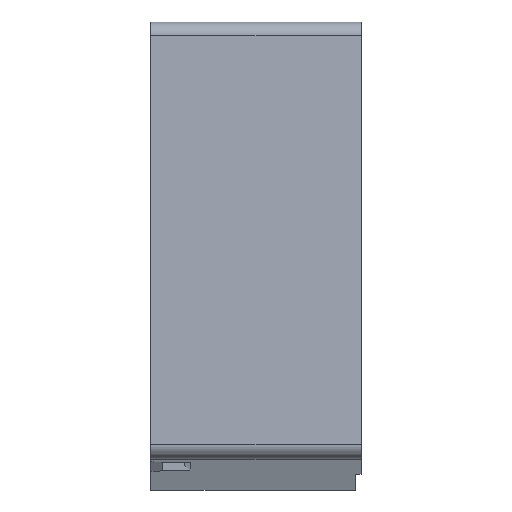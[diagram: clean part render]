
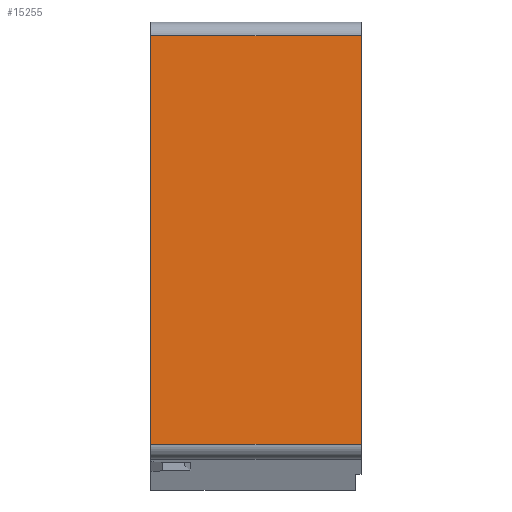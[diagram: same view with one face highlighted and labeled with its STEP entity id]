
A CAD part, front view. The second image highlights one B-rep face of the part: STEP entity #15255.
In plain terms, the highlighted planar face has unit normal (0, -0.999, 0.05).
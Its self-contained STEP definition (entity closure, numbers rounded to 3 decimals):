
#2546=DIRECTION('',(0.,-0.05,-0.999));
#2547=VECTOR('',#2546,70.);
#2548=CARTESIAN_POINT('',(26.598,-51.961,54.582));
#2549=LINE('',#2548,#2547);
#2563=DIRECTION('',(-1.,0.,0.));
#2564=VECTOR('',#2563,36.);
#2565=CARTESIAN_POINT('',(62.598,-51.961,54.582));
#2566=LINE('',#2565,#2564);
#3061=DIRECTION('',(1.,0.,0.));
#3062=VECTOR('',#3061,36.);
#3063=CARTESIAN_POINT('',(26.598,-55.464,
-15.33));
#3064=LINE('',#3063,#3062);
#3069=DIRECTION('',(0.,-0.05,-0.999));
#3070=VECTOR('',#3069,70.);
#3071=CARTESIAN_POINT('',(62.598,-51.961,54.582));
#3072=LINE('',#3071,#3070);
#9528=CARTESIAN_POINT('',(62.598,-55.464,
-15.33));
#9530=VERTEX_POINT('',#9528);
#9531=CARTESIAN_POINT('',(62.598,-51.961,54.582));
#9532=VERTEX_POINT('',#9531);
#10717=CARTESIAN_POINT('',(26.598,-55.464,
-15.33));
#10718=VERTEX_POINT('',#10717);
#10719=CARTESIAN_POINT('',(26.598,-51.961,
54.582));
#10720=VERTEX_POINT('',#10719);
#15244=CARTESIAN_POINT('',(62.598,-55.589,
-17.827));
#15245=DIRECTION('',(0.,-0.999,0.05));
#15246=DIRECTION('',(0.,0.05,0.999));
#15247=AXIS2_PLACEMENT_3D('',#15244,#15245,#15246);
#15248=PLANE('',#15247);
#15249=ORIENTED_EDGE('',*,*,#14540,.F.);
#15250=ORIENTED_EDGE('',*,*,#14562,.T.);
#15251=ORIENTED_EDGE('',*,*,#15229,.F.);
#15252=ORIENTED_EDGE('',*,*,#14517,.F.);
#15253=EDGE_LOOP('',(#15249,#15250,#15251,#15252));
#15254=FACE_OUTER_BOUND('',#15253,.F.);
#15255=ADVANCED_FACE('',(#15254),#15248,.T.);
#14517=EDGE_CURVE('',#10720,#10718,#2549,.T.);
#14540=EDGE_CURVE('',#9532,#10720,#2566,.T.);
#14562=EDGE_CURVE('',#9532,#9530,#3072,.T.);
#15229=EDGE_CURVE('',#10718,#9530,#3064,.T.);
